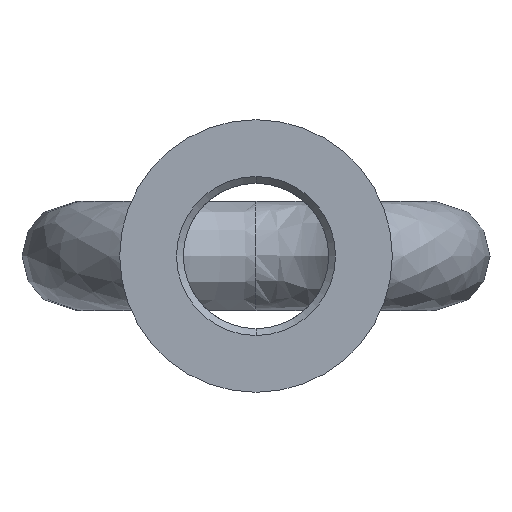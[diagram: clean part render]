
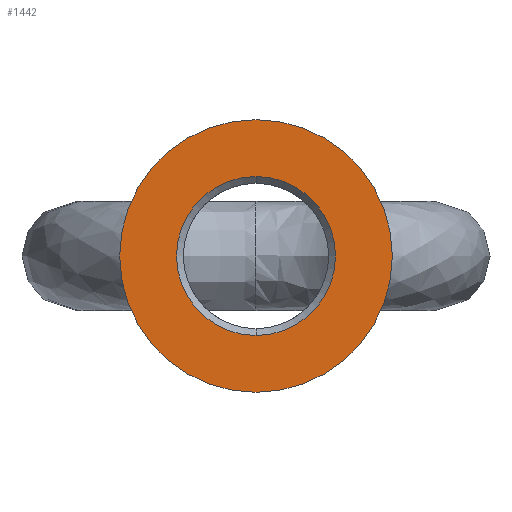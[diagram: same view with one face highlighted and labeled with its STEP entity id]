
A CAD part, front view. The second image highlights one B-rep face of the part: STEP entity #1442.
In plain terms, the highlighted planar face has unit normal (0, -1, 0).
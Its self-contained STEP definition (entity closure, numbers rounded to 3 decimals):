
#80 = CARTESIAN_POINT ( 'NONE',  ( 0., 0., 60. ) ) ;
#309 = EDGE_CURVE ( 'NONE', #2797, #2071, #820, .T. ) ;
#408 = EDGE_LOOP ( 'NONE', ( #1655, #3265 ) ) ;
#433 = AXIS2_PLACEMENT_3D ( 'NONE', #2517, #1359, #1638 ) ;
#460 = VERTEX_POINT ( 'NONE', #80 ) ;
#495 = CARTESIAN_POINT ( 'NONE',  ( 0., 0., 0. ) ) ;
#580 = CARTESIAN_POINT ( 'NONE',  ( 0., 0., 35. ) ) ;
#590 = EDGE_CURVE ( 'NONE', #3434, #460, #2467, .T. ) ;
#596 = AXIS2_PLACEMENT_3D ( 'NONE', #1136, #1696, #1177 ) ;
#635 = CARTESIAN_POINT ( 'NONE',  ( 0., 0., 0. ) ) ;
#782 = DIRECTION ( 'NONE',  ( 0., 1., 0. ) ) ;
#820 = CIRCLE ( 'NONE', #1388, 35. ) ;
#919 = DIRECTION ( 'NONE',  ( 0., 0., -1. ) ) ;
#1136 = CARTESIAN_POINT ( 'NONE',  ( 0., 0., 0. ) ) ;
#1177 = DIRECTION ( 'NONE',  ( 0., 0., 1. ) ) ;
#1283 = CIRCLE ( 'NONE', #596, 60. ) ;
#1359 = DIRECTION ( 'NONE',  ( 0., -1., 0. ) ) ;
#1388 = AXIS2_PLACEMENT_3D ( 'NONE', #635, #1787, #919 ) ;
#1433 = FACE_BOUND ( 'NONE', #408, .T. ) ;
#1442 = ADVANCED_FACE ( 'NONE', ( #1433, #2762 ), #1986, .T. ) ;
#1638 = DIRECTION ( 'NONE',  ( 0., 0., -1. ) ) ;
#1655 = ORIENTED_EDGE ( 'NONE', *, *, #2077, .T. ) ;
#1696 = DIRECTION ( 'NONE',  ( 0., 1., 0. ) ) ;
#1787 = DIRECTION ( 'NONE',  ( 0., 1., 0. ) ) ;
#1861 = DIRECTION ( 'NONE',  ( 0., 0., 1. ) ) ;
#1915 = CARTESIAN_POINT ( 'NONE',  ( 0., 0., 0. ) ) ;
#1986 = PLANE ( 'NONE',  #433 ) ;
#2071 = VERTEX_POINT ( 'NONE', #2906 ) ;
#2077 = EDGE_CURVE ( 'NONE', #2071, #2797, #3374, .T. ) ;
#2137 = DIRECTION ( 'NONE',  ( 0., 0., -1. ) ) ;
#2195 = CARTESIAN_POINT ( 'NONE',  ( 0., 0., -60. ) ) ;
#2467 = CIRCLE ( 'NONE', #2530, 60. ) ;
#2517 = CARTESIAN_POINT ( 'NONE',  ( 0., 0., 0. ) ) ;
#2530 = AXIS2_PLACEMENT_3D ( 'NONE', #1915, #782, #1861 ) ;
#2592 = ORIENTED_EDGE ( 'NONE', *, *, #590, .F. ) ;
#2694 = EDGE_CURVE ( 'NONE', #460, #3434, #1283, .T. ) ;
#2748 = AXIS2_PLACEMENT_3D ( 'NONE', #495, #2954, #2137 ) ;
#2762 = FACE_OUTER_BOUND ( 'NONE', #3016, .T. ) ;
#2797 = VERTEX_POINT ( 'NONE', #580 ) ;
#2845 = ORIENTED_EDGE ( 'NONE', *, *, #2694, .F. ) ;
#2906 = CARTESIAN_POINT ( 'NONE',  ( 0., 0., -35. ) ) ;
#2954 = DIRECTION ( 'NONE',  ( 0., 1., 0. ) ) ;
#3016 = EDGE_LOOP ( 'NONE', ( #2592, #2845 ) ) ;
#3265 = ORIENTED_EDGE ( 'NONE', *, *, #309, .T. ) ;
#3374 = CIRCLE ( 'NONE', #2748, 35. ) ;
#3434 = VERTEX_POINT ( 'NONE', #2195 ) ;
